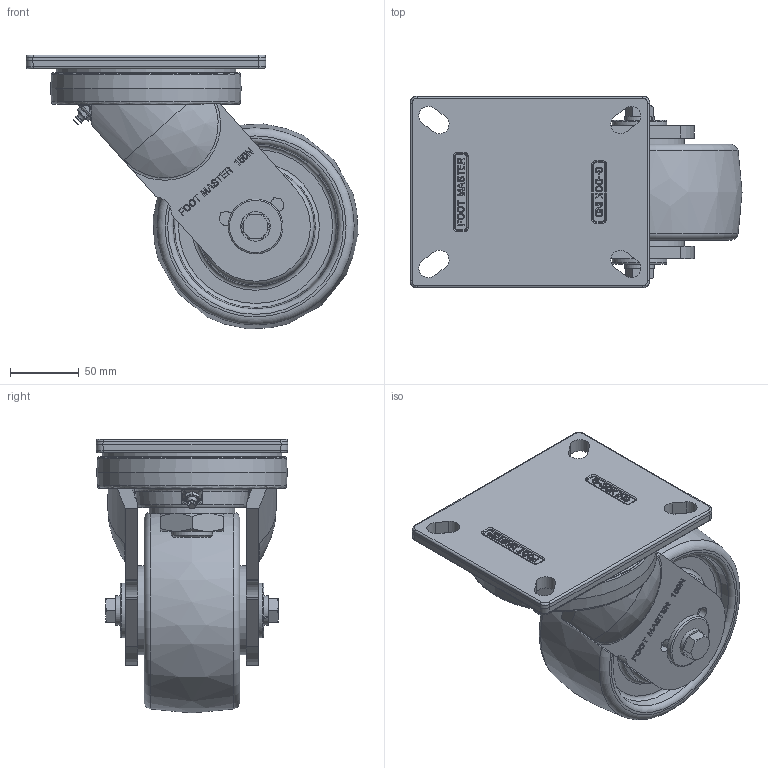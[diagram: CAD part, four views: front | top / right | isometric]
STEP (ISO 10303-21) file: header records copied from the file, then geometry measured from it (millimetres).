
FILE_DESCRIPTION(/* description */ (''),/* implementation_level */ '2;1');
FILE_NAME(/* name */ 'Y:\1.기술연구소\2.연구개발 진행중\133.고하중캐스터 브레이크 타입 변경건_2025.11.03\1.도면\4.홈페이지용 도면\01. 3D\GXT-150 SERIES\GXT-150-STEP\GXT-150N-ASF-NYD.stp',/* time_stamp */ '2026-07-22T08:03:14+09:00',/* author */ ('장용하'),/* organization */ (''),/* preprocessor_version */ 'ST-DEVELOPER v18.1',/* originating_system */ 'Autodesk Inventor 2021',/* authorisation */ '');
FILE_SCHEMA (('CONFIG_CONTROL_DESIGN'));
Length unit declared in the file: millimetre
Products named in the file (1): GXT-150N-ASF-NYD
Bounding box: 242.26 x 140 x 199.76 mm (x, y, z)
Volume: 2054850.6 mm3; surface area: 194192 mm2
Topology: 1 solids, 2 shells, 1314 faces, 3556 edges, 2345 vertices
Faces by surface type: plane 667, bspline 486, cylinder 101, cone 30, torus 26, sphere 4
Full cylindrical faces by diameter (mm): 4 x1, 12 x2, 21.5 x2, 30 x1, 40 x2, 62.5 x1, 65 x2, 131.086 x1
Entity records: 42659 total; most frequent: CARTESIAN_POINT 12688, ORIENTED_EDGE 7104, DIRECTION 4582, EDGE_CURVE 3552, VERTEX_POINT 2344, LINE 2132, VECTOR 2132, EDGE_LOOP 1434
